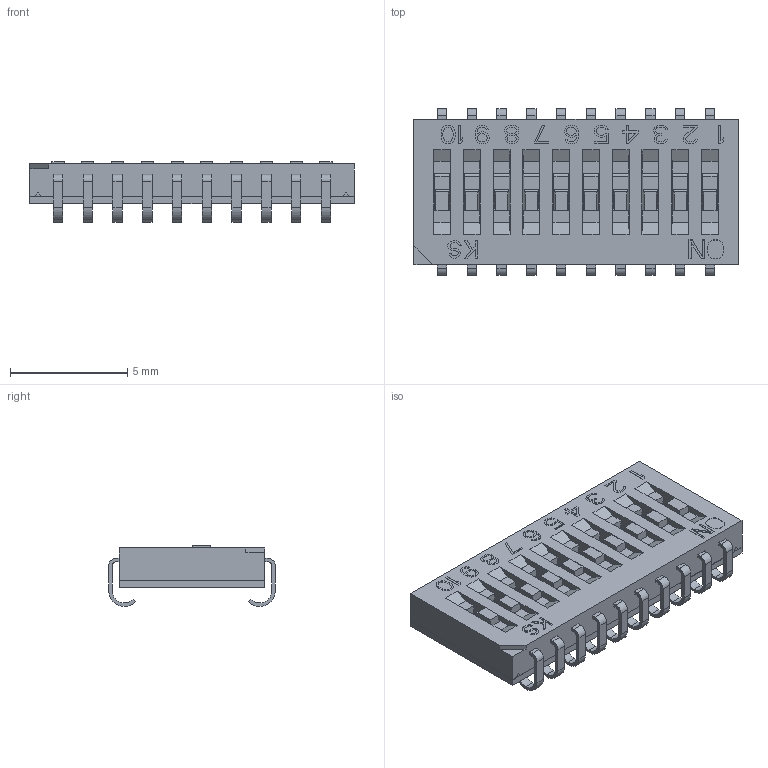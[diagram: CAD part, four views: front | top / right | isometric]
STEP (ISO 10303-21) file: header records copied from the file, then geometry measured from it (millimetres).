
FILE_DESCRIPTION((''),'2;1');
FILE_NAME('10P_COVER_J_ASM','2018-08-02T',('a15021'),('PTC'),'CREO PARAMETRIC BY PTC INC, 2017300','CREO PARAMETRIC BY PTC INC, 2017300','');
FILE_SCHEMA(('CONFIG_CONTROL_DESIGN'));
Length unit declared in the file: millimetre
Products named in the file (7): 10P-COVER-NEW; HOOK; 437-3; 4375_1_ASS_ASM; 10P-BASE-NEW; PRINT-10P; 10P_COVER_J_ASM
Assembly tree (24 placements, depth 3):
  10P_COVER_J_ASM
    10P-COVER-NEW
    HOOK  x10
    4375_1_ASS_ASM  x10
      437-3
    10P-BASE-NEW
    PRINT-10P
Bounding box: 13.83 x 7.1 x 2.6 mm (x, y, z)
Volume: 120.1 mm3; surface area: 801.2 mm2
Topology: 47 solids, 47 shells, 2278 faces, 6193 edges, 3995 vertices
Faces by surface type: plane 1788, cylinder 318, sphere 76, cone 56, bspline 40
Entity records: 44481 total; most frequent: CARTESIAN_POINT 8421, ORIENTED_EDGE 7778, DIRECTION 6830, EDGE_CURVE 3889, VECTOR 3596, LINE 3596, VERTEX_POINT 2555, AXIS2_PLACEMENT_3D 1617
